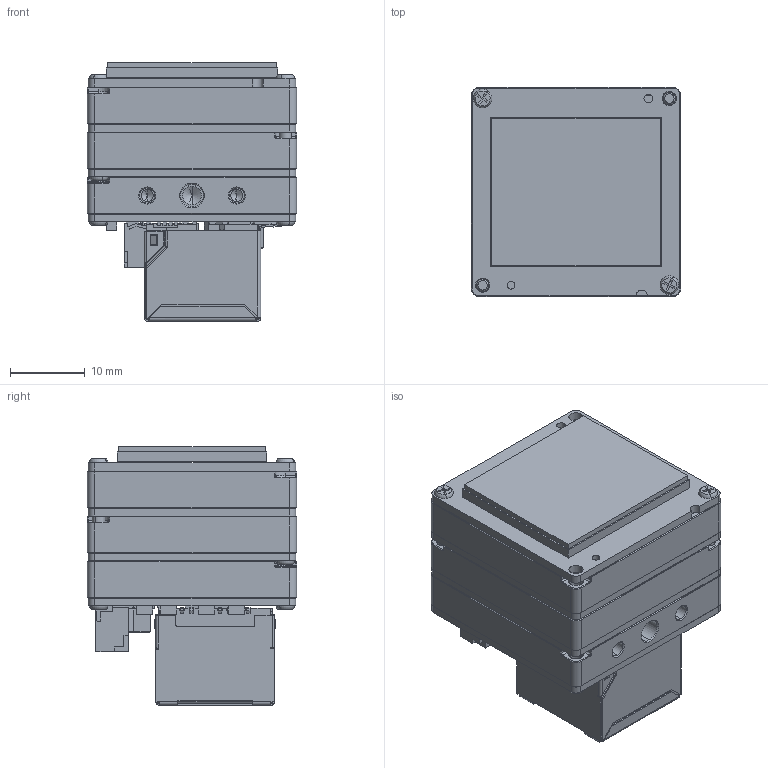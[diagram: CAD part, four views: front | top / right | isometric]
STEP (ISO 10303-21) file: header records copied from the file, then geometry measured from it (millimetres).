
FILE_DESCRIPTION (( 'STEP AP203' ), '1' );
FILE_NAME ('266-427-A_PHX28 NO MOUNT_CUBE.STEP', '2019-03-01T18:41:24', ( '' ), ( '' ), 'SwSTEP 2.0', 'SolidWorks 2017', '' );
FILE_SCHEMA (( 'CONFIG_CONTROL_DESIGN' ));
Products named in the file (1): 266-427-A_PHX28 NO MOUNT_CUBE
Bounding box: 28 x 28 x 34.62 mm (x, y, z)
Volume: 8800.6 mm3; surface area: 20424.2 mm2
Topology: 49 solids, 49 shells, 4049 faces, 10520 edges, 6480 vertices
Faces by surface type: plane 2345, cylinder 1035, bspline 287, cone 189, torus 97, sphere 96
Entity records: 126806 total; most frequent: CARTESIAN_POINT 29481, ORIENTED_EDGE 20736, DIRECTION 19471, EDGE_CURVE 10368, LINE 7399, VECTOR 7399, VERTEX_POINT 6474, AXIS2_PLACEMENT_3D 6036
